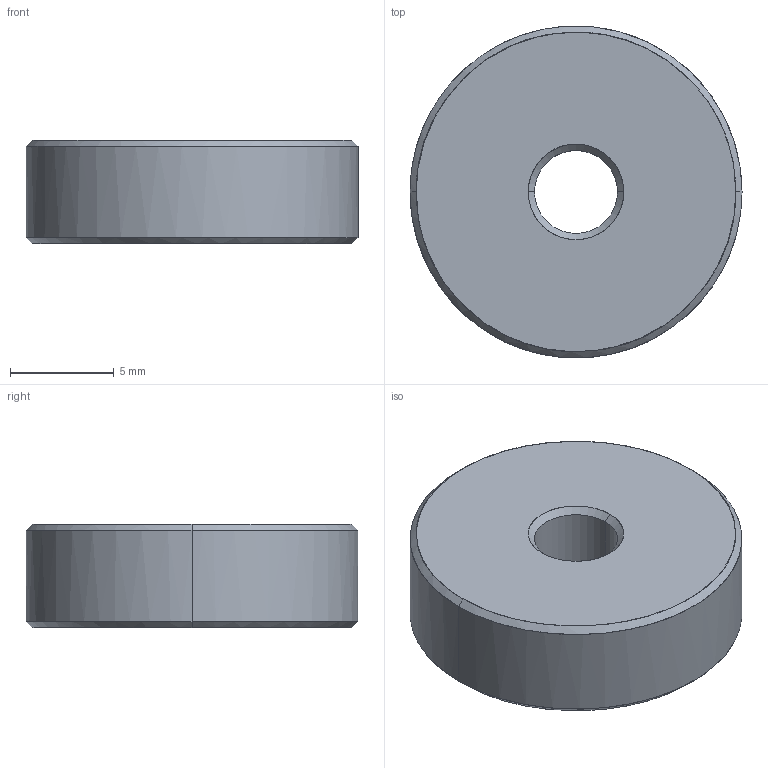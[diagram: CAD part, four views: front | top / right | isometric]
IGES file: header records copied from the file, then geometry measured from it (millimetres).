
Global section: file name: E:\UnigraphicsGraphicData\MISUMI_PRESS-PARTS\IGES\3d_r6.5-16_00102_r00.igs; native system: NX V5.0; preprocessor: UGS NX IGES V5.0; author: MISUMI; date: 20110105.162335; units: millimetre
Bounding box: 16 x 15.97 x 5 mm (x, y, z)
Surface area: 666.2 mm2 (no closed solid volume)
Topology: 0 solids, 0 shells, 14 faces, 80 edges, 80 vertices
Faces by surface type: bspline 14
